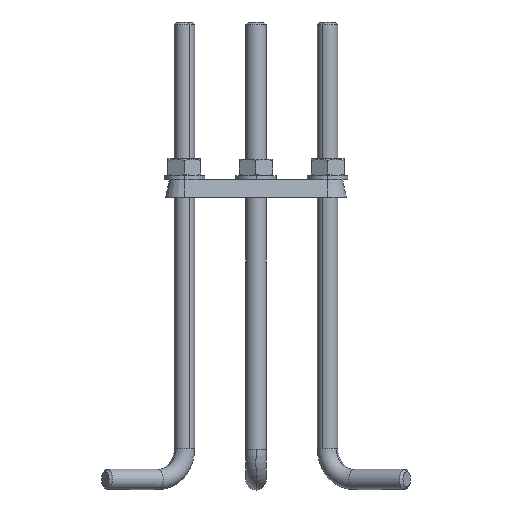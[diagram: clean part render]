
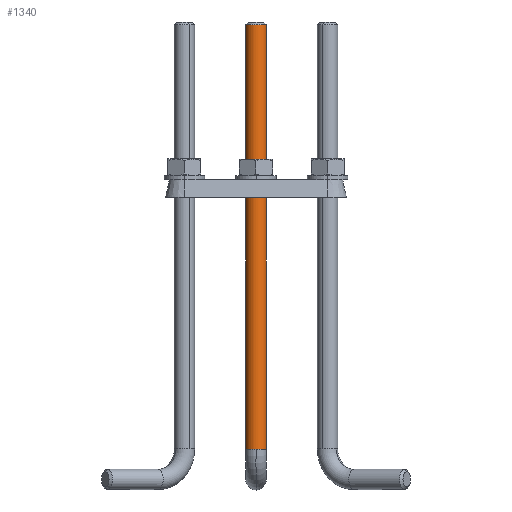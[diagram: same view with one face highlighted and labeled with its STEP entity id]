
A CAD part, top view. The second image highlights one B-rep face of the part: STEP entity #1340.
In plain terms, the highlighted cylindrical face has radius 4 mm (diameter 8 mm), a partial arc.
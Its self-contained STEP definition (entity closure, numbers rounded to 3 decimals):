
#171 = DIRECTION ( 'NONE',  ( 0., 1., 0. ) ) ;
#219 = CARTESIAN_POINT ( 'NONE',  ( -36., 12., -4. ) ) ;
#252 = VERTEX_POINT ( 'NONE', #2546 ) ;
#284 = ORIENTED_EDGE ( 'NONE', *, *, #597, .T. ) ;
#304 = CYLINDRICAL_SURFACE ( 'NONE', #2578, 4. ) ;
#324 = DIRECTION ( 'NONE',  ( 0., -1., 0. ) ) ;
#411 = DIRECTION ( 'NONE',  ( 0., 0., -1. ) ) ;
#415 = EDGE_LOOP ( 'NONE', ( #1116, #1013, #1914, #2553, #284 ) ) ;
#523 = CIRCLE ( 'NONE', #2205, 4. ) ;
#548 = AXIS2_PLACEMENT_3D ( 'NONE', #2732, #324, #758 ) ;
#597 = EDGE_CURVE ( 'NONE', #252, #2109, #916, .T. ) ;
#758 = DIRECTION ( 'NONE',  ( 0., 0., -1. ) ) ;
#765 = CARTESIAN_POINT ( 'NONE',  ( -36., 12., 0. ) ) ;
#803 = VECTOR ( 'NONE', #1126, 1000. ) ;
#812 = VERTEX_POINT ( 'NONE', #1588 ) ;
#903 = CARTESIAN_POINT ( 'NONE',  ( -36., 179., -4. ) ) ;
#916 = CIRCLE ( 'NONE', #548, 4. ) ;
#1013 = ORIENTED_EDGE ( 'NONE', *, *, #2316, .F. ) ;
#1083 = CARTESIAN_POINT ( 'NONE',  ( -36., 12., 4. ) ) ;
#1116 = ORIENTED_EDGE ( 'NONE', *, *, #2594, .F. ) ;
#1126 = DIRECTION ( 'NONE',  ( 0., 1., 0. ) ) ;
#1183 = DIRECTION ( 'NONE',  ( 0., 1., 0. ) ) ;
#1250 = LINE ( 'NONE', #1901, #1575 ) ;
#1340 = ADVANCED_FACE ( 'NONE', ( #2280 ), #304, .T. ) ;
#1366 = VERTEX_POINT ( 'NONE', #1412 ) ;
#1412 = CARTESIAN_POINT ( 'NONE',  ( -36., 12., 4. ) ) ;
#1537 = EDGE_CURVE ( 'NONE', #1366, #252, #2385, .T. ) ;
#1575 = VECTOR ( 'NONE', #171, 1000. ) ;
#1588 = CARTESIAN_POINT ( 'NONE',  ( -40., 12., 0. ) ) ;
#1705 = CARTESIAN_POINT ( 'NONE',  ( -36., 12., 0. ) ) ;
#1801 = VERTEX_POINT ( 'NONE', #219 ) ;
#1811 = DIRECTION ( 'NONE',  ( 0., 0., 1. ) ) ;
#1901 = CARTESIAN_POINT ( 'NONE',  ( -36., 12., -4. ) ) ;
#1914 = ORIENTED_EDGE ( 'NONE', *, *, #2679, .F. ) ;
#2070 = CIRCLE ( 'NONE', #2440, 4. ) ;
#2100 = DIRECTION ( 'NONE',  ( 0., 0., -1. ) ) ;
#2109 = VERTEX_POINT ( 'NONE', #903 ) ;
#2205 = AXIS2_PLACEMENT_3D ( 'NONE', #2491, #2531, #2100 ) ;
#2280 = FACE_OUTER_BOUND ( 'NONE', #415, .T. ) ;
#2316 = EDGE_CURVE ( 'NONE', #812, #1801, #523, .T. ) ;
#2385 = LINE ( 'NONE', #1083, #803 ) ;
#2440 = AXIS2_PLACEMENT_3D ( 'NONE', #1705, #2568, #411 ) ;
#2491 = CARTESIAN_POINT ( 'NONE',  ( -36., 12., 0. ) ) ;
#2531 = DIRECTION ( 'NONE',  ( 0., -1., 0. ) ) ;
#2546 = CARTESIAN_POINT ( 'NONE',  ( -36., 179., 4. ) ) ;
#2553 = ORIENTED_EDGE ( 'NONE', *, *, #1537, .T. ) ;
#2568 = DIRECTION ( 'NONE',  ( 0., -1., 0. ) ) ;
#2578 = AXIS2_PLACEMENT_3D ( 'NONE', #765, #1183, #1811 ) ;
#2594 = EDGE_CURVE ( 'NONE', #1801, #2109, #1250, .T. ) ;
#2679 = EDGE_CURVE ( 'NONE', #1366, #812, #2070, .T. ) ;
#2732 = CARTESIAN_POINT ( 'NONE',  ( -36., 179., 0. ) ) ;
